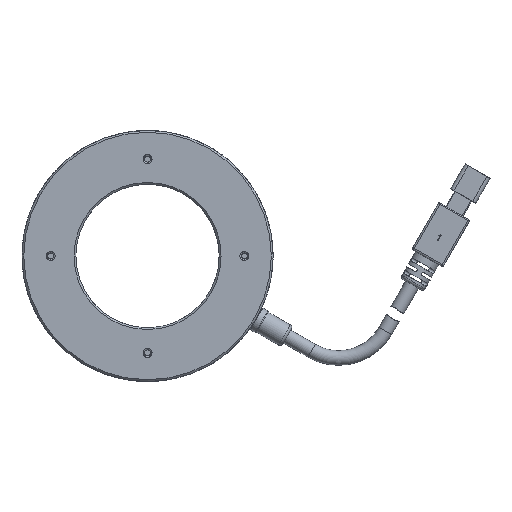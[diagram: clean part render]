
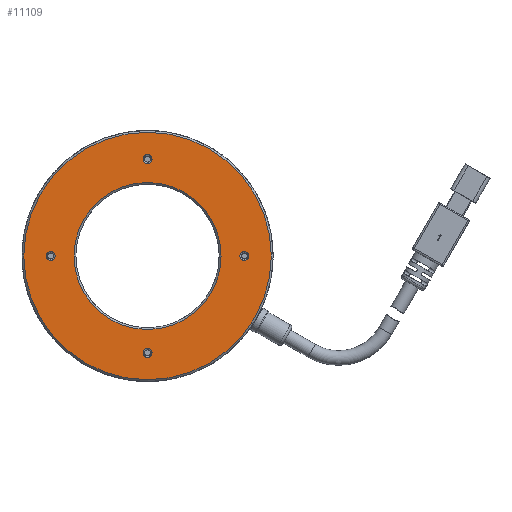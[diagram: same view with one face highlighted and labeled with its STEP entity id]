
A CAD part, front view. The second image highlights one B-rep face of the part: STEP entity #11109.
In plain terms, the highlighted planar face has unit normal (0, -1, 0).
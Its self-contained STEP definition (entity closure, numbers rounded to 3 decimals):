
#2 = ORIENTED_EDGE ( 'NONE', *, *, #10513, .F. ) ;
#72 = VERTEX_POINT ( 'NONE', #5726 ) ;
#274 = DIRECTION ( 'NONE',  ( 0., -1., 0. ) ) ;
#484 = ORIENTED_EDGE ( 'NONE', *, *, #16109, .F. ) ;
#891 = ORIENTED_EDGE ( 'NONE', *, *, #14036, .F. ) ;
#957 = VERTEX_POINT ( 'NONE', #3525 ) ;
#1602 = FACE_BOUND ( 'NONE', #12536, .T. ) ;
#2930 = DIRECTION ( 'NONE',  ( 0., 0., 1. ) ) ;
#3225 = EDGE_LOOP ( 'NONE', ( #2 ) ) ;
#3364 = CIRCLE ( 'NONE', #6409, 1.25 ) ;
#3525 = CARTESIAN_POINT ( 'NONE',  ( 30.479, 0., 76.645 ) ) ;
#4228 = CARTESIAN_POINT ( 'NONE',  ( 30.479, 0., 69.145 ) ) ;
#4467 = DIRECTION ( 'NONE',  ( 0., 0., 1. ) ) ;
#5224 = FACE_BOUND ( 'NONE', #3225, .T. ) ;
#5716 = CARTESIAN_POINT ( 'NONE',  ( 30.479, 0., 15.145 ) ) ;
#5726 = CARTESIAN_POINT ( 'NONE',  ( 30.479, 0., 62.645 ) ) ;
#5955 = AXIS2_PLACEMENT_3D ( 'NONE', #5716, #274, #13591 ) ;
#6265 = EDGE_LOOP ( 'NONE', ( #484 ) ) ;
#6409 = AXIS2_PLACEMENT_3D ( 'NONE', #4228, #22888, #19268 ) ;
#6947 = VERTEX_POINT ( 'NONE', #20907 ) ;
#7304 = FACE_BOUND ( 'NONE', #22682, .T. ) ;
#7327 = PLANE ( 'NONE',  #8815 ) ;
#7412 = CARTESIAN_POINT ( 'NONE',  ( 10.479, 0., 42.145 ) ) ;
#7686 = CIRCLE ( 'NONE', #16151, 20.5 ) ;
#7809 = CARTESIAN_POINT ( 'NONE',  ( 3.479, 0., 42.145 ) ) ;
#8231 = AXIS2_PLACEMENT_3D ( 'NONE', #19817, #14172, #2930 ) ;
#8815 = AXIS2_PLACEMENT_3D ( 'NONE', #7412, #24217, #11249 ) ;
#9878 = EDGE_CURVE ( 'NONE', #72, #72, #7686, .T. ) ;
#10075 = CIRCLE ( 'NONE', #11963, 1.25 ) ;
#10220 = VERTEX_POINT ( 'NONE', #18979 ) ;
#10513 = EDGE_CURVE ( 'NONE', #10220, #10220, #13556, .T. ) ;
#11065 = CARTESIAN_POINT ( 'NONE',  ( 57.479, 0., 42.145 ) ) ;
#11109 = ADVANCED_FACE ( 'NONE', ( #11500, #1602, #23694, #7304, #18623, #5224 ), #7327, .F. ) ;
#11249 = DIRECTION ( 'NONE',  ( 0., 0., 1. ) ) ;
#11484 = CARTESIAN_POINT ( 'NONE',  ( 30.479, 0., 67.895 ) ) ;
#11500 = FACE_OUTER_BOUND ( 'NONE', #20003, .T. ) ;
#11963 = AXIS2_PLACEMENT_3D ( 'NONE', #11065, #19070, #17953 ) ;
#12088 = CIRCLE ( 'NONE', #12700, 1.25 ) ;
#12536 = EDGE_LOOP ( 'NONE', ( #15579 ) ) ;
#12700 = AXIS2_PLACEMENT_3D ( 'NONE', #7809, #21151, #16116 ) ;
#12717 = ORIENTED_EDGE ( 'NONE', *, *, #22200, .T. ) ;
#13556 = CIRCLE ( 'NONE', #5955, 1.25 ) ;
#13591 = DIRECTION ( 'NONE',  ( 0., 0., -1. ) ) ;
#14036 = EDGE_CURVE ( 'NONE', #14658, #14658, #12088, .T. ) ;
#14091 = VERTEX_POINT ( 'NONE', #11484 ) ;
#14172 = DIRECTION ( 'NONE',  ( 0., -1., 0. ) ) ;
#14658 = VERTEX_POINT ( 'NONE', #17210 ) ;
#14787 = ORIENTED_EDGE ( 'NONE', *, *, #15756, .F. ) ;
#15508 = EDGE_LOOP ( 'NONE', ( #891 ) ) ;
#15579 = ORIENTED_EDGE ( 'NONE', *, *, #9878, .T. ) ;
#15756 = EDGE_CURVE ( 'NONE', #14091, #14091, #3364, .T. ) ;
#16109 = EDGE_CURVE ( 'NONE', #6947, #6947, #10075, .T. ) ;
#16116 = DIRECTION ( 'NONE',  ( 0., 0., -1. ) ) ;
#16120 = DIRECTION ( 'NONE',  ( 0., 1., 0. ) ) ;
#16151 = AXIS2_PLACEMENT_3D ( 'NONE', #17957, #16120, #4467 ) ;
#17210 = CARTESIAN_POINT ( 'NONE',  ( 3.479, 0., 40.895 ) ) ;
#17953 = DIRECTION ( 'NONE',  ( 0., 0., -1. ) ) ;
#17957 = CARTESIAN_POINT ( 'NONE',  ( 30.479, 0., 42.145 ) ) ;
#18623 = FACE_BOUND ( 'NONE', #6265, .T. ) ;
#18979 = CARTESIAN_POINT ( 'NONE',  ( 30.479, 0., 13.895 ) ) ;
#19070 = DIRECTION ( 'NONE',  ( 0., -1., 0. ) ) ;
#19268 = DIRECTION ( 'NONE',  ( 0., 0., -1. ) ) ;
#19817 = CARTESIAN_POINT ( 'NONE',  ( 30.479, 0., 42.145 ) ) ;
#20003 = EDGE_LOOP ( 'NONE', ( #12717 ) ) ;
#20907 = CARTESIAN_POINT ( 'NONE',  ( 57.479, 0., 40.895 ) ) ;
#21151 = DIRECTION ( 'NONE',  ( 0., -1., 0. ) ) ;
#21248 = CIRCLE ( 'NONE', #8231, 34.5 ) ;
#22200 = EDGE_CURVE ( 'NONE', #957, #957, #21248, .T. ) ;
#22682 = EDGE_LOOP ( 'NONE', ( #14787 ) ) ;
#22888 = DIRECTION ( 'NONE',  ( 0., -1., 0. ) ) ;
#23694 = FACE_BOUND ( 'NONE', #15508, .T. ) ;
#24217 = DIRECTION ( 'NONE',  ( 0., 1., 0. ) ) ;
